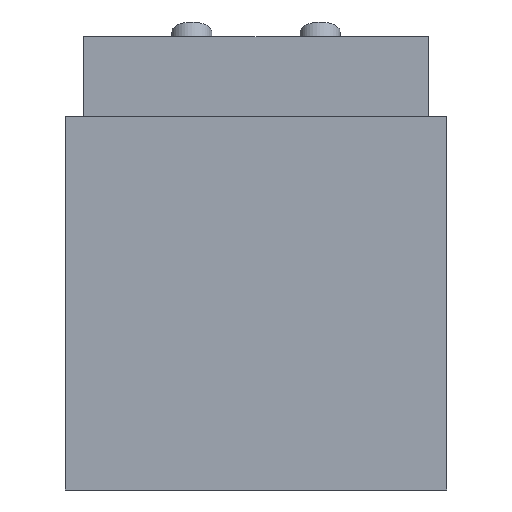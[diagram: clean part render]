
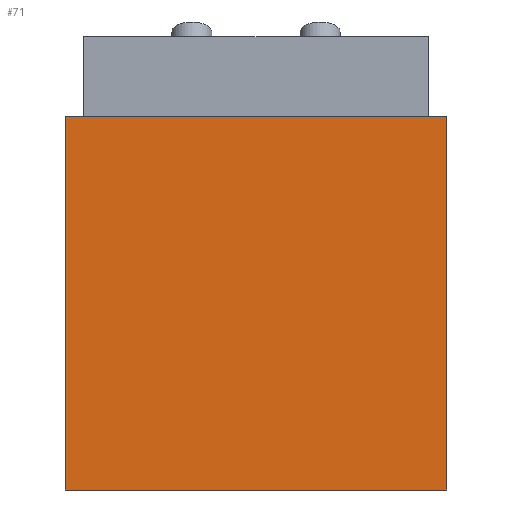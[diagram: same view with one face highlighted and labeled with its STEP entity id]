
A CAD part, front view. The second image highlights one B-rep face of the part: STEP entity #71.
In plain terms, the highlighted planar face has unit normal (0, -1, 0).
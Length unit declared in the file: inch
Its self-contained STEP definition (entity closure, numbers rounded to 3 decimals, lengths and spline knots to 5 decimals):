
#58 = ORIENTED_EDGE ( 'NONE', *, *, #128, .T. ) ;
#61 = FACE_OUTER_BOUND ( 'NONE', #870, .T. ) ;
#71 = ADVANCED_FACE ( 'NONE', ( #61 ), #712, .F. ) ;
#72 = DIRECTION ( 'NONE',  ( 0., 0., -1. ) ) ;
#128 = EDGE_CURVE ( 'NONE', #412, #806, #510, .T. ) ;
#158 = DIRECTION ( 'NONE',  ( -1., 0., 0. ) ) ;
#180 = ORIENTED_EDGE ( 'NONE', *, *, #513, .F. ) ;
#211 = VERTEX_POINT ( 'NONE', #881 ) ;
#220 = CARTESIAN_POINT ( 'NONE',  ( 11.875, -11.25, 8.58492 ) ) ;
#228 = EDGE_CURVE ( 'NONE', #806, #211, #944, .T. ) ;
#257 = VERTEX_POINT ( 'NONE', #491 ) ;
#262 = VECTOR ( 'NONE', #158, 39.37008 ) ;
#266 = LINE ( 'NONE', #552, #931 ) ;
#271 = CARTESIAN_POINT ( 'NONE',  ( 11.875, -11.25, -14.66508 ) ) ;
#288 = DIRECTION ( 'NONE',  ( -1., 0., 0. ) ) ;
#329 = VECTOR ( 'NONE', #72, 39.37008 ) ;
#412 = VERTEX_POINT ( 'NONE', #494 ) ;
#458 = ORIENTED_EDGE ( 'NONE', *, *, #228, .T. ) ;
#491 = CARTESIAN_POINT ( 'NONE',  ( 11.875, -11.25, -14.66508 ) ) ;
#494 = CARTESIAN_POINT ( 'NONE',  ( 11.875, -11.25, 8.58492 ) ) ;
#510 = LINE ( 'NONE', #220, #262 ) ;
#513 = EDGE_CURVE ( 'NONE', #412, #257, #266, .T. ) ;
#525 = AXIS2_PLACEMENT_3D ( 'NONE', #271, #927, #853 ) ;
#552 = CARTESIAN_POINT ( 'NONE',  ( 11.875, -11.25, -14.66508 ) ) ;
#582 = CARTESIAN_POINT ( 'NONE',  ( -11.875, -11.25, 8.58492 ) ) ;
#620 = DIRECTION ( 'NONE',  ( 0., 0., -1. ) ) ;
#712 = PLANE ( 'NONE',  #525 ) ;
#758 = ORIENTED_EDGE ( 'NONE', *, *, #841, .F. ) ;
#778 = VECTOR ( 'NONE', #288, 39.37008 ) ;
#792 = CARTESIAN_POINT ( 'NONE',  ( -11.875, -11.25, -14.66508 ) ) ;
#806 = VERTEX_POINT ( 'NONE', #582 ) ;
#841 = EDGE_CURVE ( 'NONE', #257, #211, #855, .T. ) ;
#853 = DIRECTION ( 'NONE',  ( 0., 0., 1. ) ) ;
#855 = LINE ( 'NONE', #925, #778 ) ;
#870 = EDGE_LOOP ( 'NONE', ( #458, #758, #180, #58 ) ) ;
#881 = CARTESIAN_POINT ( 'NONE',  ( -11.875, -11.25, -14.66508 ) ) ;
#925 = CARTESIAN_POINT ( 'NONE',  ( 11.875, -11.25, -14.66508 ) ) ;
#927 = DIRECTION ( 'NONE',  ( 0., 1., 0. ) ) ;
#931 = VECTOR ( 'NONE', #620, 39.37008 ) ;
#944 = LINE ( 'NONE', #792, #329 ) ;
